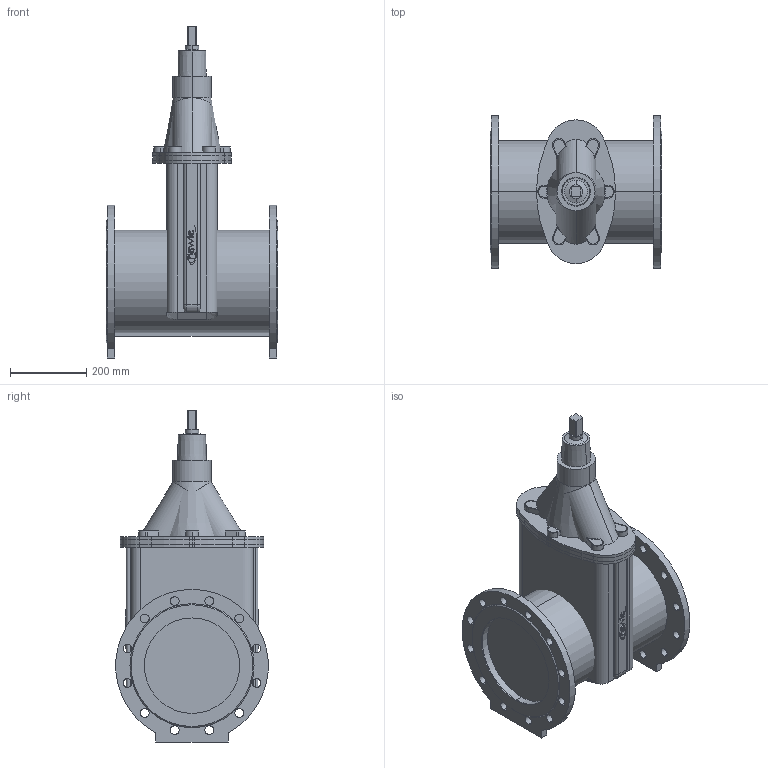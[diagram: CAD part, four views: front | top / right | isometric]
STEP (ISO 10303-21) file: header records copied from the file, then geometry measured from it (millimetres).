
FILE_DESCRIPTION(('STEP AP214'),'1');
FILE_NAME('S:/EK/USER/CAT6/3DHomepage/4700E2/4700E2-PN10-DN250.STP','2012-04-23T12:32:45',(' '),(' '),'Spatial InterOp 3D',' ',' ');
FILE_SCHEMA(('automotive_design'));
Length unit declared in the file: millimetre
Products named in the file (50): 3D-Objekt
Bounding box: 450 x 398.65 x 870 mm (x, y, z)
Volume: 50037304.7 mm3; surface area: 2318477.6 mm2
Topology: 50 solids, 50 shells, 500 faces, 1194 edges, 796 vertices
Faces by surface type: plane 246, cylinder 236, cone 10, bspline 4, torus 4
Entity records: 19994 total; most frequent: DIRECTION 2798, CARTESIAN_POINT 2608, ORIENTED_EDGE 2388, EDGE_CURVE 1194, AXIS2_PLACEMENT_3D 1058, VERTEX_POINT 796, LINE 682, VECTOR 682
